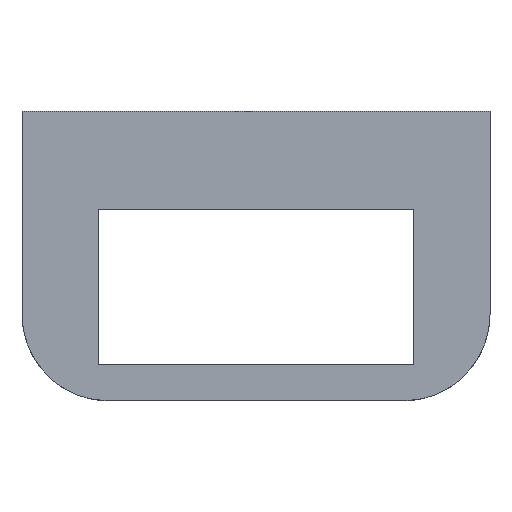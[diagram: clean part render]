
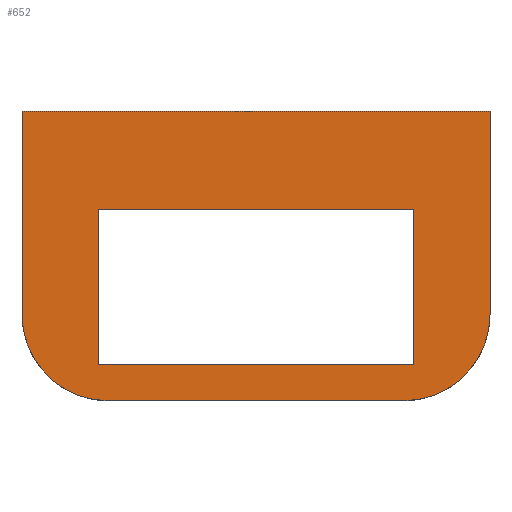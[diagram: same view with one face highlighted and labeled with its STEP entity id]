
A CAD part, left-side view. The second image highlights one B-rep face of the part: STEP entity #652.
In plain terms, the highlighted planar face has unit normal (-1, 0, 0).
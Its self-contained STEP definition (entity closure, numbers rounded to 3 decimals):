
#652=ADVANCED_FACE('',(#1223,#1225),#1227,.T.);
#1223=FACE_BOUND('',#1224,.T.);
#1224=EDGE_LOOP('',(#1616,#1617,#1618,#1619,#1620,#1621));
#1225=FACE_BOUND('',#1226,.T.);
#1226=EDGE_LOOP('',(#1622,#1623,#1624,#1625));
#1227=PLANE('',#1228);
#1228=AXIS2_PLACEMENT_3D('',#1229,#1230,#1231);
#1229=CARTESIAN_POINT('',(-35.,19.,0.));
#1230=DIRECTION('',(-1.,0.,0.));
#1231=DIRECTION('',(0.,-1.,0.));
#1616=ORIENTED_EDGE('',*,*,#1837,.F.);
#1617=ORIENTED_EDGE('',*,*,#1803,.T.);
#1618=ORIENTED_EDGE('',*,*,#1838,.F.);
#1619=ORIENTED_EDGE('',*,*,#1790,.F.);
#1620=ORIENTED_EDGE('',*,*,#1832,.F.);
#1621=ORIENTED_EDGE('',*,*,#1829,.T.);
#1622=ORIENTED_EDGE('',*,*,#1839,.T.);
#1623=ORIENTED_EDGE('',*,*,#1840,.T.);
#1624=ORIENTED_EDGE('',*,*,#1815,.T.);
#1625=ORIENTED_EDGE('',*,*,#1841,.T.);
#1790=EDGE_CURVE('',#2072,#2074,#2075,.T.);
#1803=EDGE_CURVE('',#2096,#2094,#2097,.T.);
#1815=EDGE_CURVE('',#2116,#2114,#2117,.F.);
#1829=EDGE_CURVE('',#2138,#2136,#2139,.T.);
#1832=EDGE_CURVE('',#2138,#2072,#2142,.F.);
#1837=EDGE_CURVE('',#2096,#2136,#2147,.F.);
#1838=EDGE_CURVE('',#2074,#2094,#2148,.T.);
#1839=EDGE_CURVE('',#2149,#2150,#2151,.F.);
#1840=EDGE_CURVE('',#2150,#2116,#2152,.F.);
#1841=EDGE_CURVE('',#2114,#2149,#2153,.F.);
#2072=VERTEX_POINT('',#2693);
#2074=VERTEX_POINT('',#2697);
#2075=LINE('',#2698,#2699);
#2094=VERTEX_POINT('',#2745);
#2096=VERTEX_POINT('',#2749);
#2097=LINE('',#2750,#2751);
#2114=VERTEX_POINT('',#2792);
#2116=VERTEX_POINT('',#2796);
#2117=LINE('',#2797,#2798);
#2136=VERTEX_POINT('',#2844);
#2138=VERTEX_POINT('',#2848);
#2139=LINE('',#2849,#2850);
#2142=CIRCLE('',#2858,7.);
#2147=CIRCLE('',#2874,7.);
#2148=LINE('',#2878,#2879);
#2149=VERTEX_POINT('',#2881);
#2150=VERTEX_POINT('',#2882);
#2151=LINE('',#2883,#2884);
#2152=LINE('',#2886,#2887);
#2153=LINE('',#2889,#2890);
#2693=CARTESIAN_POINT('',(-35.,19.,-8.5));
#2697=CARTESIAN_POINT('',(-35.,19.,8.));
#2698=CARTESIAN_POINT('',(-35.,19.,-8.5));
#2699=VECTOR('',#2700,1.);
#2700=DIRECTION('',(0.,0.,1.));
#2745=CARTESIAN_POINT('',(-35.,-19.,8.));
#2749=CARTESIAN_POINT('',(-35.,-19.,-8.5));
#2750=CARTESIAN_POINT('',(-35.,-19.,-8.5));
#2751=VECTOR('',#2752,1.);
#2752=DIRECTION('',(0.,0.,1.));
#2792=CARTESIAN_POINT('',(-35.,-12.8,0.));
#2796=CARTESIAN_POINT('',(-35.,12.8,0.));
#2797=CARTESIAN_POINT('',(-35.,-12.8,0.));
#2798=VECTOR('',#2799,1.);
#2799=DIRECTION('',(0.,1.,0.));
#2844=CARTESIAN_POINT('',(-35.,-12.,-15.5));
#2848=CARTESIAN_POINT('',(-35.,12.,-15.5));
#2849=CARTESIAN_POINT('',(-35.,12.,-15.5));
#2850=VECTOR('',#2851,1.);
#2851=DIRECTION('',(0.,-1.,0.));
#2858=AXIS2_PLACEMENT_3D('',#2859,#2860,#2861);
#2859=CARTESIAN_POINT('',(-35.,12.,-8.5));
#2860=DIRECTION('',(-1.,0.,0.));
#2861=DIRECTION('',(0.,1.,0.));
#2874=AXIS2_PLACEMENT_3D('',#2875,#2876,#2877);
#2875=CARTESIAN_POINT('',(-35.,-12.,-8.5));
#2876=DIRECTION('',(-1.,0.,0.));
#2877=DIRECTION('',(0.,0.,-1.));
#2878=CARTESIAN_POINT('',(-35.,19.,8.));
#2879=VECTOR('',#2880,1.);
#2880=DIRECTION('',(0.,-1.,0.));
#2881=CARTESIAN_POINT('',(-35.,-12.8,-12.6));
#2882=CARTESIAN_POINT('',(-35.,12.8,-12.6));
#2883=CARTESIAN_POINT('',(-35.,12.8,-12.6));
#2884=VECTOR('',#2885,1.);
#2885=DIRECTION('',(0.,-1.,0.));
#2886=CARTESIAN_POINT('',(-35.,12.8,0.));
#2887=VECTOR('',#2888,1.);
#2888=DIRECTION('',(0.,0.,-1.));
#2889=CARTESIAN_POINT('',(-35.,-12.8,-12.6));
#2890=VECTOR('',#2891,1.);
#2891=DIRECTION('',(0.,0.,1.));
